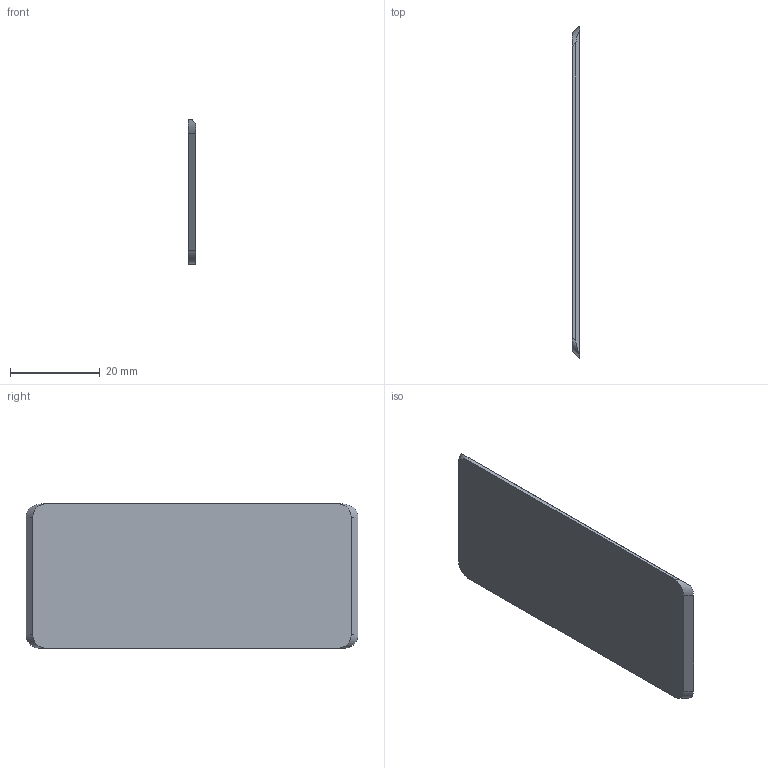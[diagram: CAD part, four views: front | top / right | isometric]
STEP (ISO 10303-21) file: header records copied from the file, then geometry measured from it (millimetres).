
FILE_DESCRIPTION(('Open CASCADE Model'),'2;1');
FILE_NAME('Open CASCADE Shape Model','2026-11-02T07:53:36',('Author'),( 'Open CASCADE'),'Open CASCADE STEP processor 7.8','Open CASCADE 7.8' ,'Unknown');
FILE_SCHEMA(('AUTOMOTIVE_DESIGN { 1 0 10303 214 1 1 1 1 }'));
Length unit declared in the file: millimetre
Products named in the file (1): Open CASCADE STEP translator 7.8 1
Bounding box: 1.65 x 74 x 32.2 mm (x, y, z)
Volume: 3814 mm3; surface area: 4990.8 mm2
Topology: 1 solids, 1 shells, 11 faces, 27 edges, 18 vertices
Faces by surface type: bspline 6, plane 5
Entity records: 846 total; most frequent: CARTESIAN_POINT 339, DIRECTION 76, ORIENTED_EDGE 54, PCURVE 54, DEFINITIONAL_REPRESENTATION 54, LINE 44, VECTOR 44, EDGE_CURVE 27
